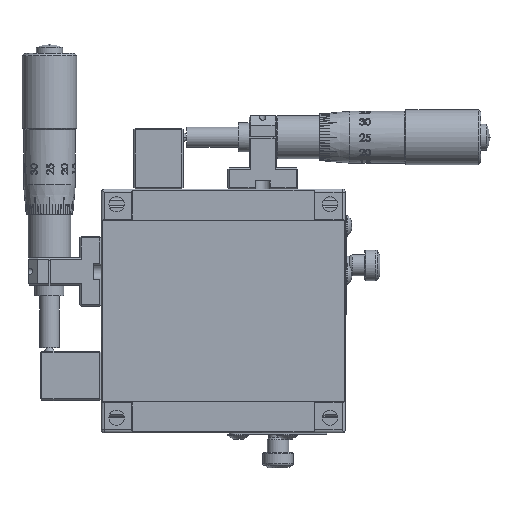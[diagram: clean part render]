
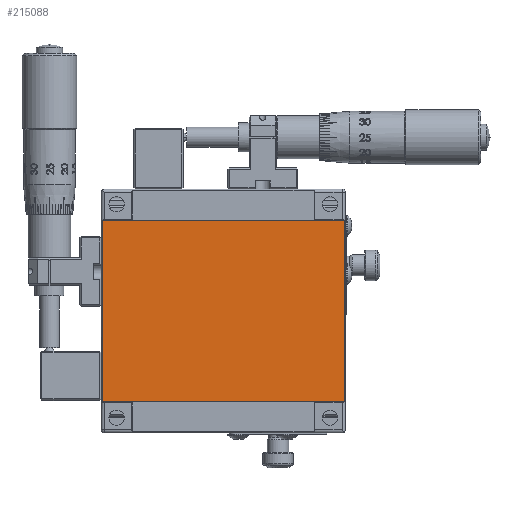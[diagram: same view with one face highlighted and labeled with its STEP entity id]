
A CAD part, front view. The second image highlights one B-rep face of the part: STEP entity #215088.
In plain terms, the highlighted planar face has unit normal (0, -1, 0).
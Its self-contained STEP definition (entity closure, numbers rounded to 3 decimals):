
#3566 = ORIENTED_EDGE ( 'NONE', *, *, #161742, .T. ) ;
#5345 = PLANE ( 'NONE',  #202880 ) ;
#7736 = ORIENTED_EDGE ( 'NONE', *, *, #118447, .T. ) ;
#12621 = FACE_OUTER_BOUND ( 'NONE', #43050, .T. ) ;
#22739 = DIRECTION ( 'NONE',  ( 0., 1., 0. ) ) ;
#24825 = LINE ( 'NONE', #135920, #59919 ) ;
#30457 = VECTOR ( 'NONE', #105315, 1000. ) ;
#35938 = LINE ( 'NONE', #70689, #30457 ) ;
#43050 = EDGE_LOOP ( 'NONE', ( #191041, #3566, #7736, #147473 ) ) ;
#49828 = CARTESIAN_POINT ( 'NONE',  ( -44.404, -6.46, 29.7 ) ) ;
#53302 = CARTESIAN_POINT ( 'NONE',  ( 35.31, -6.46, -29.7 ) ) ;
#59919 = VECTOR ( 'NONE', #168983, 1000. ) ;
#60281 = EDGE_CURVE ( 'NONE', #147577, #223086, #184491, .T. ) ;
#70689 = CARTESIAN_POINT ( 'NONE',  ( 35.31, -6.46, 29.7 ) ) ;
#97054 = DIRECTION ( 'NONE',  ( 0., 0., 1. ) ) ;
#105315 = DIRECTION ( 'NONE',  ( -1., 0., 0. ) ) ;
#109575 = CARTESIAN_POINT ( 'NONE',  ( 35.024, -6.46, 29.7 ) ) ;
#118447 = EDGE_CURVE ( 'NONE', #121837, #211308, #35938, .T. ) ;
#121837 = VERTEX_POINT ( 'NONE', #109575 ) ;
#125962 = CARTESIAN_POINT ( 'NONE',  ( 35.31, -6.46, 29.7 ) ) ;
#129134 = LINE ( 'NONE', #148902, #169436 ) ;
#135920 = CARTESIAN_POINT ( 'NONE',  ( -44.404, -6.46, 29.7 ) ) ;
#143230 = DIRECTION ( 'NONE',  ( 0., 0., 1. ) ) ;
#147473 = ORIENTED_EDGE ( 'NONE', *, *, #222370, .T. ) ;
#147577 = VERTEX_POINT ( 'NONE', #203082 ) ;
#148902 = CARTESIAN_POINT ( 'NONE',  ( 35.024, -6.46, -29.7 ) ) ;
#161742 = EDGE_CURVE ( 'NONE', #147577, #121837, #129134, .T. ) ;
#168983 = DIRECTION ( 'NONE',  ( 0., 0., -1. ) ) ;
#169436 = VECTOR ( 'NONE', #97054, 1000. ) ;
#173693 = DIRECTION ( 'NONE',  ( -1., 0., 0. ) ) ;
#178486 = CARTESIAN_POINT ( 'NONE',  ( -44.404, -6.46, -29.7 ) ) ;
#179124 = VECTOR ( 'NONE', #173693, 1000. ) ;
#184491 = LINE ( 'NONE', #53302, #179124 ) ;
#191041 = ORIENTED_EDGE ( 'NONE', *, *, #60281, .F. ) ;
#202880 = AXIS2_PLACEMENT_3D ( 'NONE', #125962, #22739, #143230 ) ;
#203082 = CARTESIAN_POINT ( 'NONE',  ( 35.024, -6.46, -29.7 ) ) ;
#211308 = VERTEX_POINT ( 'NONE', #49828 ) ;
#215088 = ADVANCED_FACE ( 'NONE', ( #12621 ), #5345, .F. ) ;
#222370 = EDGE_CURVE ( 'NONE', #211308, #223086, #24825, .T. ) ;
#223086 = VERTEX_POINT ( 'NONE', #178486 ) ;
